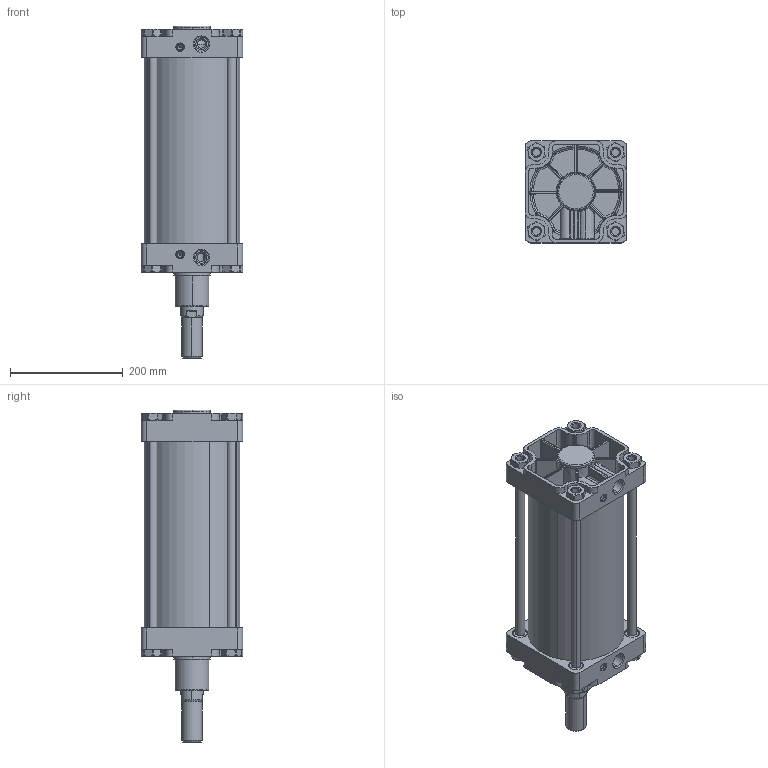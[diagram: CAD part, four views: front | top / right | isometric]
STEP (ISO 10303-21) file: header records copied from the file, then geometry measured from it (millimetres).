
FILE_DESCRIPTION (( 'STEP AP203' ), '1' );
FILE_NAME ('SC160X250CYLÝNDER.STEP', '2015-03-16T12:06:27', ( 'user' ), ( '' ), 'SwSTEP 2.0', 'SolidWorks 2013', '' );
FILE_SCHEMA (( 'CONFIG_CONTROL_DESIGN' ));
Length unit declared in the file: millimetre
Products named in the file (8): SC 泩 KAPAK  160; SC Piston Mili 160x250; SC 160x250 BORU; SC SAPLAMA SOMUN 160; SC 160x250 SAPLAMA; SC160X250CYLÝNDER; SC ARKA KAPAK  160; SC ORTA P¦STON 160
Assembly tree (17 placements, depth 2):
  SC160X250CYLÝNDER
    SC ARKA KAPAK  160
    SC ORTA P¦STON 160
    SC 泩 KAPAK  160
    SC Piston Mili 160x250
    SC 160x250 BORU
    SC SAPLAMA SOMUN 160  x8
    SC 160x250 SAPLAMA  x4
Bounding box: 180 x 180 x 588 mm (x, y, z)
Volume: 4174995 mm3; surface area: 1115492.1 mm2
Topology: 17 solids, 17 shells, 1364 faces, 3422 edges, 2148 vertices
Faces by surface type: cylinder 472, plane 359, cone 320, bspline 212, sphere 1
Entity records: 46074 total; most frequent: CARTESIAN_POINT 20943, ORIENTED_EDGE 5340, DIRECTION 4724, EDGE_CURVE 2670, AXIS2_PLACEMENT_3D 1875, VERTEX_POINT 1688, EDGE_LOOP 1144, ADVANCED_FACE 1050
